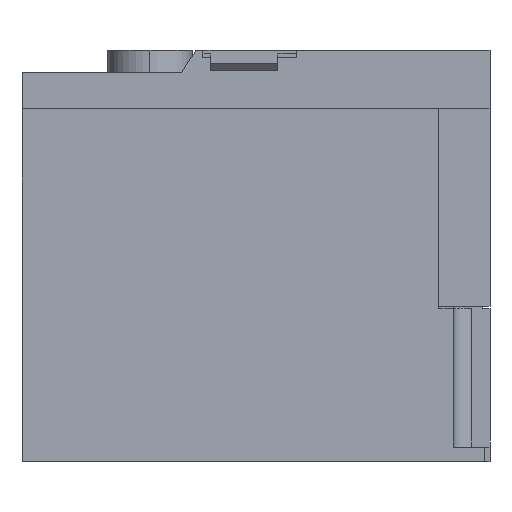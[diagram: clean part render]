
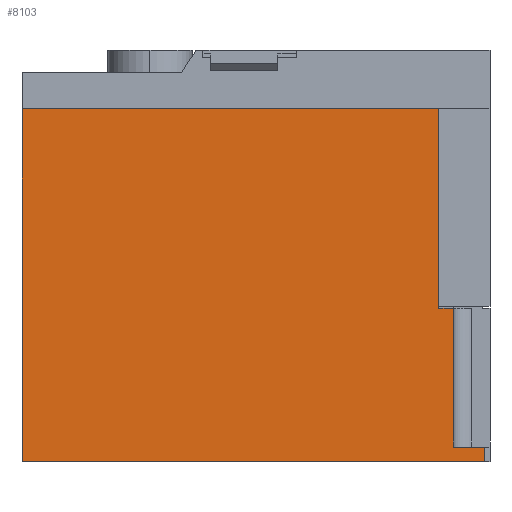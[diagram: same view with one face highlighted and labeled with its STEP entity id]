
A CAD part, left-side view. The second image highlights one B-rep face of the part: STEP entity #8103.
In plain terms, the highlighted planar face has unit normal (-1, 0, 0).
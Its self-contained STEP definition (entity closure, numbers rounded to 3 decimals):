
#44=DIRECTION('',(0.,-1.,0.));
#45=VECTOR('',#44,126.5);
#46=CARTESIAN_POINT('',(-34.,64.,-42.));
#47=LINE('',#46,#45);
#175=DIRECTION('',(0.,0.,-1.));
#176=VECTOR('',#175,96.5);
#177=CARTESIAN_POINT('',(-34.,64.,54.5));
#178=LINE('',#177,#176);
#275=DIRECTION('',(0.,-1.,0.));
#276=VECTOR('',#275,4.);
#277=CARTESIAN_POINT('',(-34.,-50.,0.));
#278=LINE('',#277,#276);
#1955=DIRECTION('',(0.,-1.,0.));
#1956=VECTOR('',#1955,114.);
#1957=CARTESIAN_POINT('',(-34.,64.,54.5));
#1958=LINE('',#1957,#1956);
#2131=DIRECTION('',(0.,0.,1.));
#2132=VECTOR('',#2131,54.5);
#2133=CARTESIAN_POINT('',(-34.,-50.,0.));
#2134=LINE('',#2133,#2132);
#2862=DIRECTION('',(0.,0.,-1.));
#2863=VECTOR('',#2862,38.);
#2864=CARTESIAN_POINT('',(-34.,-54.,0.));
#2865=LINE('',#2864,#2863);
#2866=DIRECTION('',(0.,-1.,0.));
#2867=VECTOR('',#2866,8.5);
#2868=CARTESIAN_POINT('',(-34.,-54.,-38.));
#2869=LINE('',#2868,#2867);
#2870=DIRECTION('',(0.,0.,1.));
#2871=VECTOR('',#2870,4.);
#2872=CARTESIAN_POINT('',(-34.,-62.5,-42.));
#2873=LINE('',#2872,#2871);
#3102=CARTESIAN_POINT('',(-34.,64.,-42.));
#3104=VERTEX_POINT('',#3102);
#3117=CARTESIAN_POINT('',(-34.,-54.,0.));
#3118=CARTESIAN_POINT('',(-34.,-54.,-38.));
#3119=VERTEX_POINT('',#3117);
#3120=VERTEX_POINT('',#3118);
#3153=CARTESIAN_POINT('',(-34.,-62.5,-42.));
#3154=VERTEX_POINT('',#3153);
#3167=CARTESIAN_POINT('',(-34.,-62.5,-38.));
#3168=VERTEX_POINT('',#3167);
#3557=CARTESIAN_POINT('',(-34.,64.,54.5));
#3558=CARTESIAN_POINT('',(-34.,-50.,54.5));
#3559=VERTEX_POINT('',#3557);
#3560=VERTEX_POINT('',#3558);
#3637=CARTESIAN_POINT('',(-34.,-50.,0.));
#3638=VERTEX_POINT('',#3637);
#8087=CARTESIAN_POINT('',(-34.,64.,-42.));
#8088=DIRECTION('',(-1.,0.,0.));
#8089=DIRECTION('',(0.,-1.,0.));
#8090=AXIS2_PLACEMENT_3D('',#8087,#8088,#8089);
#8091=PLANE('',#8090);
#8092=ORIENTED_EDGE('',*,*,#4255,.F.);
#8093=ORIENTED_EDGE('',*,*,#6635,.T.);
#8094=ORIENTED_EDGE('',*,*,#6843,.F.);
#8095=ORIENTED_EDGE('',*,*,#4357,.T.);
#8097=ORIENTED_EDGE('',*,*,#8096,.T.);
#8098=ORIENTED_EDGE('',*,*,#4192,.T.);
#8099=ORIENTED_EDGE('',*,*,#8080,.F.);
#8100=ORIENTED_EDGE('',*,*,#4114,.F.);
#8101=EDGE_LOOP('',(#8092,#8093,#8094,#8095,#8097,#8098,#8099,#8100));
#8102=FACE_OUTER_BOUND('',#8101,.F.);
#8103=ADVANCED_FACE('',(#8102),#8091,.T.);
#4114=EDGE_CURVE('',#3104,#3154,#47,.T.);
#4192=EDGE_CURVE('',#3120,#3168,#2869,.T.);
#4255=EDGE_CURVE('',#3559,#3104,#178,.T.);
#4357=EDGE_CURVE('',#3638,#3119,#278,.T.);
#6635=EDGE_CURVE('',#3559,#3560,#1958,.T.);
#6843=EDGE_CURVE('',#3638,#3560,#2134,.T.);
#8080=EDGE_CURVE('',#3154,#3168,#2873,.T.);
#8096=EDGE_CURVE('',#3119,#3120,#2865,.T.);
